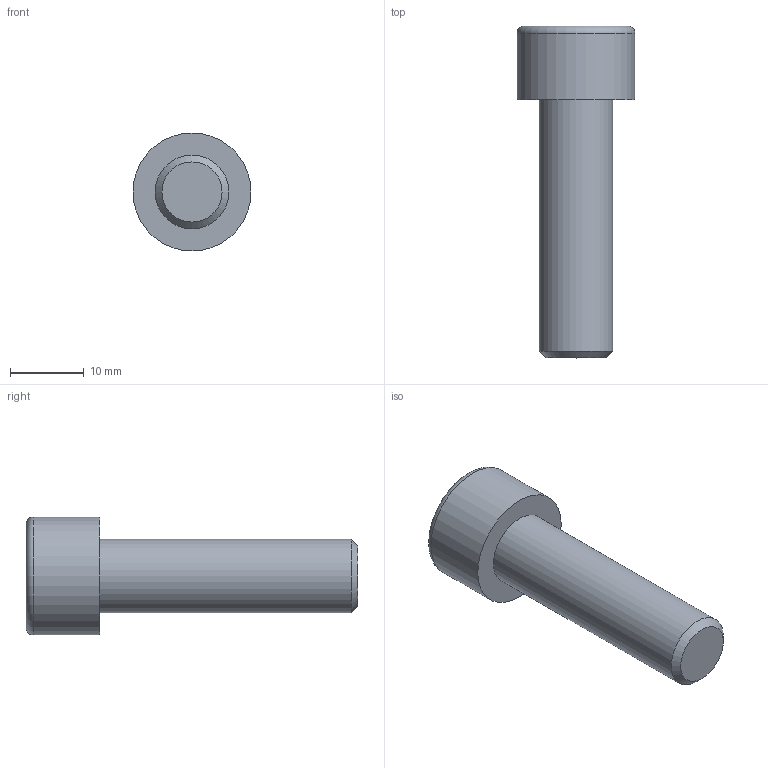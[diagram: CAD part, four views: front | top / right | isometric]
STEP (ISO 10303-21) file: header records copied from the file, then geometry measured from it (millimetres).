
FILE_DESCRIPTION(/* description */ (''),/* implementation_level */ '2;1');
FILE_NAME(/* name */ 'C:\Users\D\Documents\Inventor\各種小物\JIS\JIS B 1176 六角穴付きボルト\M10x35.stp',/* time_stamp */ '2022-05-09T18:52:15+09:00',/* author */ ('D'),/* organization */ (''),/* preprocessor_version */ 'ST-DEVELOPER v18',/* originating_system */ 'Autodesk Inventor 2020',/* authorisation */ '');
FILE_SCHEMA (('AUTOMOTIVE_DESIGN { 1 0 10303 214 3 1 1 }'));
Length unit declared in the file: millimetre
Products named in the file (1): M1.6x2.5
Bounding box: 16 x 45 x 16 mm (x, y, z)
Volume: 4401.5 mm3; surface area: 2117.9 mm2
Topology: 1 solids, 1 shells, 14 faces, 33 edges, 22 vertices
Faces by surface type: plane 9, cone 2, cylinder 2, torus 1
Full cylindrical faces by diameter (mm): 10 x1, 16 x1
Entity records: 435 total; most frequent: CARTESIAN_POINT 83, ORIENTED_EDGE 64, DIRECTION 64, EDGE_CURVE 32, AXIS2_PLACEMENT_3D 24, VERTEX_POINT 22, EDGE_LOOP 16, LINE 16
